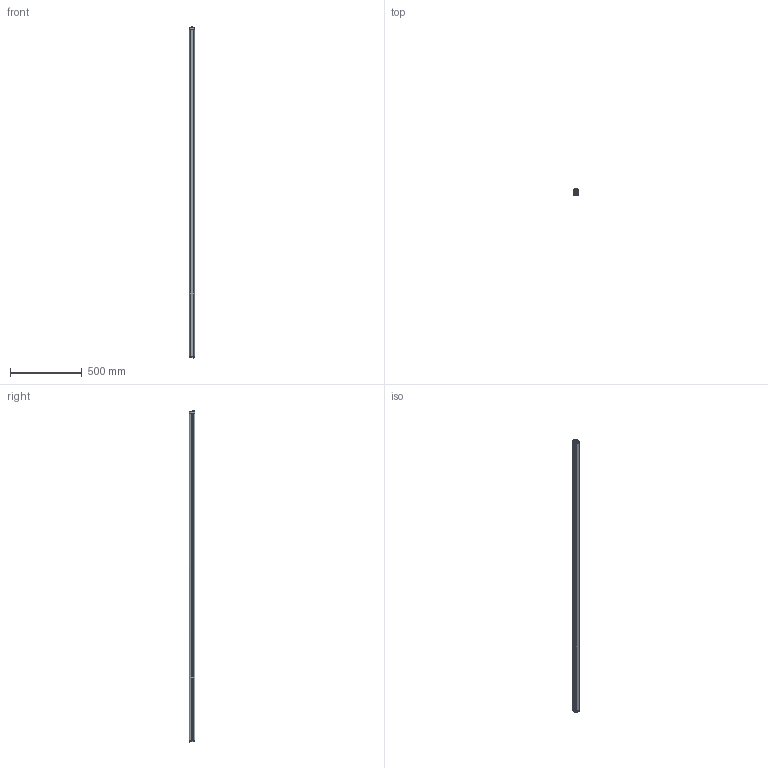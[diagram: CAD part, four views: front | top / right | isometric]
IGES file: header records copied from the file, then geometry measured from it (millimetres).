
Global section: file name: C:\Users\fguttadauro\Desktop\DSD-1024 DS2-05-07-225-JV _RX_IGS.igs; native system: NX V12.0; preprocessor: SIEMENS PLM Software NX 12.0; date: 20200721.161229; units: millimetre
Bounding box: 35 x 40.1 x 2314.3 mm (x, y, z)
Surface area: 452928.3 mm2 (no closed solid volume)
Topology: 0 solids, 0 shells, 1268 faces, 7578 edges, 7427 vertices
Faces by surface type: bspline 1268
